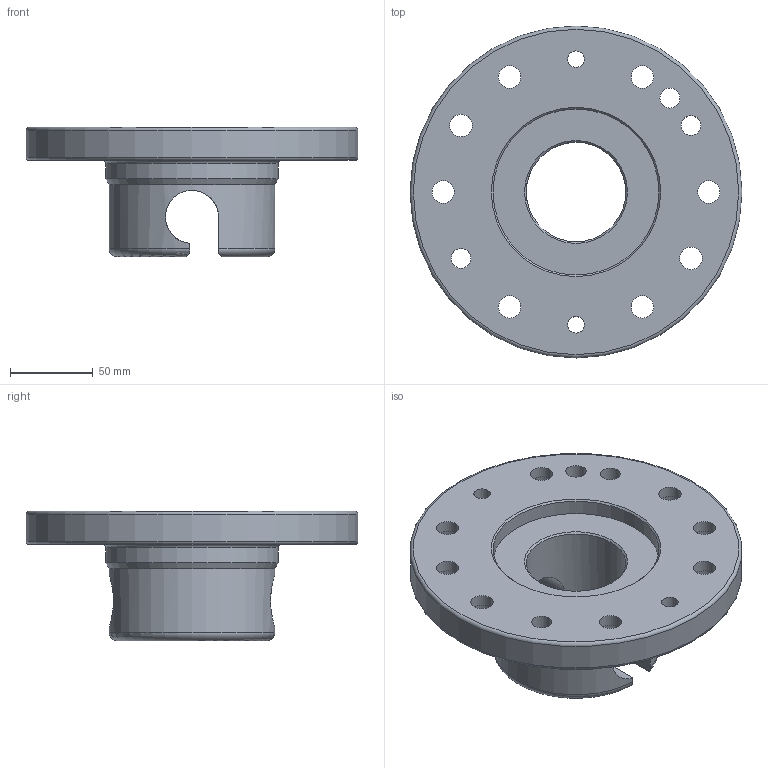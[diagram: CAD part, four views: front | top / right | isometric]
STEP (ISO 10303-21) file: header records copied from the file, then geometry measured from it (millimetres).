
FILE_DESCRIPTION(/* description */ (''),/* implementation_level */ '2;1');
FILE_NAME(/* name */ '\\dc01\daten\CAD\Standard\Daten\3D-Datenbank\Webseite 2020\SWS\200\G-SWS200-2U-N-M12.stp',/* time_stamp */ '2020-05-05T13:16:55+02:00',/* author */ ('ysplieth'),/* organization */ (''),/* preprocessor_version */ 'ST-DEVELOPER v17',/* originating_system */ 'Autodesk Inventor 2018',/* authorisation */ '');
FILE_SCHEMA (('AUTOMOTIVE_DESIGN { 1 0 10303 214 3 1 1 }'));
Length unit declared in the file: millimetre
Products named in the file (1): G-SWS200-2U-N-M12
Bounding box: 200 x 200 x 78 mm (x, y, z)
Volume: 726833.7 mm3; surface area: 109938.2 mm2
Topology: 1 solids, 1 shells, 59 faces, 170 edges, 122 vertices
Faces by surface type: cylinder 28, plane 21, torus 5, cone 5
Full cylindrical faces by diameter (mm): 10 x2, 12 x2, 12.1 x1, 13.5 x8, 20 x8, 60 x1, 100 x2, 104 x1, 200 x1
Entity records: 2434 total; most frequent: CARTESIAN_POINT 630, DIRECTION 375, ORIENTED_EDGE 340, EDGE_CURVE 170, AXIS2_PLACEMENT_3D 163, VERTEX_POINT 122, CIRCLE 99, EDGE_LOOP 96
